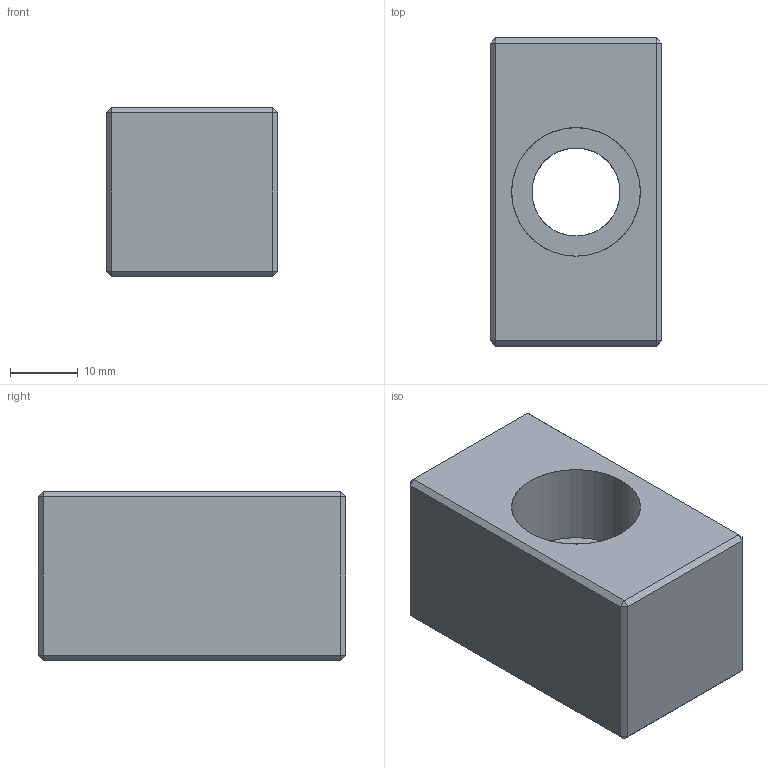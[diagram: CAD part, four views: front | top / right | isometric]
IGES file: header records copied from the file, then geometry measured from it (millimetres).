
Start section: SolidWorks IGES FILE using analytic representation for surfaces
Global section: file name: C:\WIX2\Positioning\3030\3030W060.igs; native system: SolidWorks 2003 by SolidWorks Corporation; preprocessor: Version 5.3; author: Joan; date: 030722.120008; units: millimetre
Bounding box: 25.4 x 45.5 x 25 mm (x, y, z)
Surface area: 6670.8 mm2 (no closed solid volume)
Topology: 0 solids, 0 shells, 31 faces, 240 edges, 240 vertices
Faces by surface type: bspline 27, revolution 4
